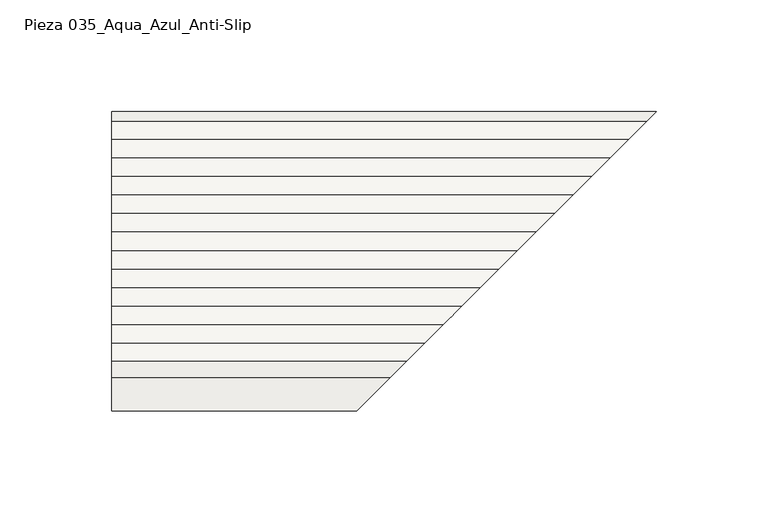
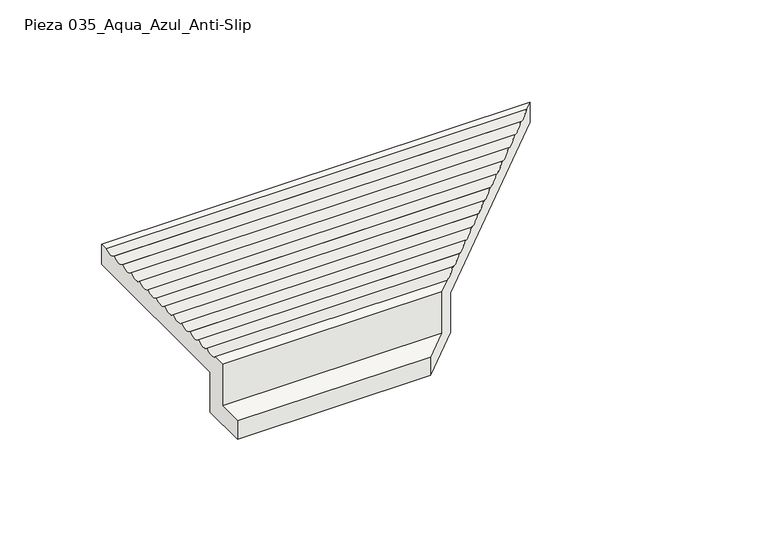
"""IFC4 building model written with IfcOpenShell, lengths in millimetres: slab geometry, ROSA GRES_035 (corte) : Pieza 035_Aqua_Azul_Anti-Slip."""

from ifc_helpers import new_model, si_unit, frame, origin, place, context, project, spatial, polyline, circle_curve, ellipse_curve, source, transform, mapped, element, save
from ifc_brep_helpers import plane_surface, revolved_surface, advanced_brep


def pieza_035_aqua_azul_anti_slip_d3a0b70b(model_context):
    return source(origin(), model_context, "Body", "AdvancedBrep", [
        advanced_brep(
        [(0.0, 27.0, 0.0), (0.0, 0.0, 0.0), (0.0, 0.0, 11.0), (0.0, 15.0, 11.0), (0.0, 15.0, 36.0), (0.0, 22.2513049, 36.0), (0.0, 30.2099792, 36.3166361), (0.0, 38.5132257, 36.3139585), (0.0, 46.8164721, 36.3112809), (0.0, 55.1197186, 36.3086032), (0.0, 63.4229651, 36.3059256), (0.0, 71.7262115, 36.303248), (0.0, 80.029458, 36.3005703), (0.0, 88.3327044, 36.2978927), (0.0, 96.6359509, 36.2952151), (0.0, 104.9391974, 36.2925375), (0.0, 113.2424438, 36.2898598), (0.0, 121.5456903, 36.2871822), (0.0, 129.5038983, 35.9651908), (0.0, 134.0, 35.9651908), (0.0, 134.0, 24.0), (0.0, 27.0, 24.0), (136.5, 27.0, 0.0), (109.5, 0.0, 0.0), (109.5, 0.0, 11.0), (124.5, 15.0, 11.0), (124.5, 15.0, 36.0), (131.7513049, 22.2513049, 36.0), (139.7099792, 30.2099792, 36.3166361), (148.0132257, 38.5132257, 36.3139585), (156.3164721, 46.8164721, 36.3112809), (164.6197186, 55.1197186, 36.3086032), (172.9229651, 63.4229651, 36.3059256), (181.2262115, 71.7262115, 36.303248), (189.529458, 80.029458, 36.3005703), (197.8327044, 88.3327044, 36.2978927), (206.1359509, 96.6359509, 36.2952151), (214.4391974, 104.9391974, 36.2925375), (222.7424438, 113.2424438, 36.2898598), (231.0456903, 121.5456903, 36.2871822), (239.0038983, 129.5038983, 35.9651908), (243.5, 134.0, 35.9651908), (243.5, 134.0, 24.0), (136.5, 27.0, 24.0)],
        [
            (0, 1),
            (1, 2),
            (2, 3),
            (3, 4),
            (4, 5),
            (5, 6, circle_curve(frame((0.0, 26.0596902, 40.4552078), z_axis=(1.0, 0.0, 0.0), x_axis=(0.0, 1.0, 0.0)), 5.8611155)),
            (6, 7, circle_curve(frame((0.0, 34.3629366, 40.4525301), z_axis=(1.0, 0.0, 0.0), x_axis=(0.0, 1.0, 0.0)), 5.8611155)),
            (7, 8, circle_curve(frame((0.0, 42.6661831, 40.4498525), z_axis=(1.0, 0.0, 0.0), x_axis=(0.0, 1.0, 0.0)), 5.8611155)),
            (8, 9, circle_curve(frame((0.0, 50.9694296, 40.4471749), z_axis=(1.0, 0.0, 0.0), x_axis=(0.0, 1.0, 0.0)), 5.8611155)),
            (9, 10, circle_curve(frame((0.0, 59.272676, 40.4444972), z_axis=(1.0, 0.0, 0.0), x_axis=(0.0, 1.0, 0.0)), 5.8611155)),
            (10, 11, circle_curve(frame((0.0, 67.5759225, 40.4418196), z_axis=(1.0, 0.0, 0.0), x_axis=(0.0, 1.0, 0.0)), 5.8611155)),
            (11, 12, circle_curve(frame((0.0, 75.8791689, 40.439142), z_axis=(1.0, 0.0, 0.0), x_axis=(0.0, 1.0, 0.0)), 5.8611155)),
            (12, 13, circle_curve(frame((0.0, 84.1824154, 40.4364643), z_axis=(1.0, 0.0, 0.0), x_axis=(0.0, 1.0, 0.0)), 5.8611155)),
            (13, 14, circle_curve(frame((0.0, 92.4856619, 40.4337867), z_axis=(1.0, 0.0, 0.0), x_axis=(0.0, 1.0, 0.0)), 5.8611155)),
            (14, 15, circle_curve(frame((0.0, 100.7889083, 40.4311091), z_axis=(1.0, 0.0, 0.0), x_axis=(0.0, 1.0, 0.0)), 5.8611155)),
            (15, 16, circle_curve(frame((0.0, 109.0921548, 40.4284314), z_axis=(1.0, 0.0, 0.0), x_axis=(0.0, 1.0, 0.0)), 5.8611155)),
            (16, 17, circle_curve(frame((0.0, 117.3954012, 40.4257538), z_axis=(1.0, 0.0, 0.0), x_axis=(0.0, 1.0, 0.0)), 5.8611155)),
            (17, 18, circle_curve(frame((0.0, 125.6986477, 40.4230762), z_axis=(1.0, 0.0, 0.0), x_axis=(0.0, 1.0, 0.0)), 5.8611155)),
            (18, 19),
            (19, 20),
            (20, 21),
            (21, 0),
            (0, 22),
            (22, 23),
            (23, 1),
            (23, 24),
            (24, 2),
            (24, 25),
            (25, 3),
            (25, 26),
            (26, 4),
            (26, 27),
            (27, 5),
            (27, 28, ellipse_curve(frame((135.5596902, 26.0596902, 40.4552078), z_axis=(0.7071067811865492, -0.7071067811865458, 0.0), x_axis=(0.7071067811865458, 0.7071067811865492, 0.0)), 8.288869, 5.8611155)),
            (28, 6),
            (28, 29, ellipse_curve(frame((143.8629366, 34.3629366, 40.4525301), z_axis=(0.7071067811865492, -0.7071067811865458, 0.0), x_axis=(0.7071067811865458, 0.7071067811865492, 0.0)), 8.288869, 5.8611155)),
            (29, 7),
            (29, 30, ellipse_curve(frame((152.1661831, 42.6661831, 40.4498525), z_axis=(0.7071067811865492, -0.7071067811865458, 0.0), x_axis=(0.7071067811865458, 0.7071067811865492, 0.0)), 8.288869, 5.8611155)),
            (30, 8),
            (30, 31, ellipse_curve(frame((160.4694295, 50.9694296, 40.4471749), z_axis=(0.7071067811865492, -0.7071067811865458, 0.0), x_axis=(0.7071067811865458, 0.7071067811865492, 0.0)), 8.288869, 5.8611155)),
            (31, 9),
            (31, 32, ellipse_curve(frame((168.772676, 59.272676, 40.4444972), z_axis=(0.7071067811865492, -0.7071067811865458, 0.0), x_axis=(0.7071067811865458, 0.7071067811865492, 0.0)), 8.288869, 5.8611155)),
            (32, 10),
            (32, 33, ellipse_curve(frame((177.0759225, 67.5759225, 40.4418196), z_axis=(0.7071067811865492, -0.7071067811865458, 0.0), x_axis=(0.7071067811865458, 0.7071067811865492, 0.0)), 8.288869, 5.8611155)),
            (33, 11),
            (33, 34, ellipse_curve(frame((185.3791689, 75.8791689, 40.439142), z_axis=(0.7071067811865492, -0.7071067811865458, 0.0), x_axis=(0.7071067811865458, 0.7071067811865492, 0.0)), 8.288869, 5.8611155)),
            (34, 12),
            (34, 35, ellipse_curve(frame((193.6824154, 84.1824154, 40.4364643), z_axis=(0.7071067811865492, -0.7071067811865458, 0.0), x_axis=(0.7071067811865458, 0.7071067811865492, 0.0)), 8.288869, 5.8611155)),
            (35, 13),
            (35, 36, ellipse_curve(frame((201.9856619, 92.4856619, 40.4337867), z_axis=(0.7071067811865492, -0.7071067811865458, 0.0), x_axis=(0.7071067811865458, 0.7071067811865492, 0.0)), 8.288869, 5.8611155)),
            (36, 14),
            (36, 37, ellipse_curve(frame((210.2889083, 100.7889083, 40.4311091), z_axis=(0.7071067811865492, -0.7071067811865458, 0.0), x_axis=(0.7071067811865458, 0.7071067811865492, 0.0)), 8.288869, 5.8611155)),
            (37, 15),
            (37, 38, ellipse_curve(frame((218.5921548, 109.0921548, 40.4284314), z_axis=(0.7071067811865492, -0.7071067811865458, 0.0), x_axis=(0.7071067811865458, 0.7071067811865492, 0.0)), 8.288869, 5.8611155)),
            (38, 16),
            (38, 39, ellipse_curve(frame((226.8954012, 117.3954012, 40.4257538), z_axis=(0.7071067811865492, -0.7071067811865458, 0.0), x_axis=(0.7071067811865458, 0.7071067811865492, 0.0)), 8.288869, 5.8611155)),
            (39, 17),
            (39, 40, ellipse_curve(frame((235.1986477, 125.6986477, 40.4230762), z_axis=(0.7071067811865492, -0.7071067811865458, 0.0), x_axis=(0.7071067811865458, 0.7071067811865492, 0.0)), 8.288869, 5.8611155)),
            (40, 18),
            (40, 41),
            (41, 19),
            (41, 42),
            (42, 20),
            (42, 43),
            (43, 21),
            (43, 22),
        ],
        [
            plane_surface(frame((0.0, 0.0, 0.0), z_axis=(-1.0, 0.0, 0.0), x_axis=(0.0, 0.0, 1.0))),
            plane_surface(frame((0.0, 27.0, 0.0), z_axis=(0.0, 0.0, -1.0), x_axis=(1.0, 0.0, 0.0))),
            plane_surface(frame((0.0, 0.0, 0.0), z_axis=(0.0, -1.0, 0.0), x_axis=(1.0, 0.0, 0.0))),
            plane_surface(frame((0.0, 0.0, 11.0), z_axis=(0.0, 0.0, 1.0), x_axis=(1.0, 0.0, 0.0))),
            plane_surface(frame((0.0, 15.0, 11.0), z_axis=(0.0, -1.0, 1.6630550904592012e-11), x_axis=(1.0, 0.0, 0.0))),
            plane_surface(frame((0.0, 15.0, 36.0), z_axis=(0.0, 0.0, 1.0), x_axis=(1.0, 0.0, 0.0))),
            revolved_surface(polyline([(141.42080567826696, 31.9208057, 40.4552078), (0.0, 31.9208057, 40.4552078)]), (0.0, 26.0596902, 40.4552078), (1.0, 0.0, 0.0)),
            revolved_surface(polyline([(149.72405207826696, 40.224052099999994, 40.4525301), (0.0, 40.224052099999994, 40.4525301)]), (0.0, 34.3629366, 40.4525301), (1.0, 0.0, 0.0)),
            revolved_surface(polyline([(158.02729857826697, 48.527298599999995, 40.4498525), (0.0, 48.527298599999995, 40.4498525)]), (0.0, 42.6661831, 40.4498525), (1.0, 0.0, 0.0)),
            revolved_surface(polyline([(166.33054497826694, 56.830545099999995, 40.4471749), (0.0, 56.830545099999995, 40.4471749)]), (0.0, 50.9694296, 40.4471749), (1.0, 0.0, 0.0)),
            revolved_surface(polyline([(174.63379147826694, 65.1337915, 40.4444972), (0.0, 65.1337915, 40.4444972)]), (0.0, 59.272676, 40.4444972), (1.0, 0.0, 0.0)),
            revolved_surface(polyline([(182.93703797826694, 73.437038, 40.4418196), (0.0, 73.437038, 40.4418196)]), (0.0, 67.5759225, 40.4418196), (1.0, 0.0, 0.0)),
            revolved_surface(polyline([(191.24028437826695, 81.7402844, 40.439142), (0.0, 81.7402844, 40.439142)]), (0.0, 75.8791689, 40.439142), (1.0, 0.0, 0.0)),
            revolved_surface(polyline([(199.54353087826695, 90.0435309, 40.4364643), (0.0, 90.0435309, 40.4364643)]), (0.0, 84.1824154, 40.4364643), (1.0, 0.0, 0.0)),
            revolved_surface(polyline([(207.84677737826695, 98.3467774, 40.4337867), (0.0, 98.3467774, 40.4337867)]), (0.0, 92.4856619, 40.4337867), (1.0, 0.0, 0.0)),
            revolved_surface(polyline([(216.15002377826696, 106.6500238, 40.4311091), (0.0, 106.6500238, 40.4311091)]), (0.0, 100.7889083, 40.4311091), (1.0, 0.0, 0.0)),
            revolved_surface(polyline([(224.45327027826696, 114.9532703, 40.4284314), (0.0, 114.9532703, 40.4284314)]), (0.0, 109.0921548, 40.4284314), (1.0, 0.0, 0.0)),
            revolved_surface(polyline([(232.75651667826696, 123.25651669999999, 40.4257538), (0.0, 123.25651669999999, 40.4257538)]), (0.0, 117.3954012, 40.4257538), (1.0, 0.0, 0.0)),
            revolved_surface(polyline([(241.05976317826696, 131.5597632, 40.4230762), (0.0, 131.5597632, 40.4230762)]), (0.0, 125.6986477, 40.4230762), (1.0, 0.0, 0.0)),
            plane_surface(frame((0.0, 129.5038983, 35.9651908), z_axis=(0.0, 0.0, 1.0), x_axis=(1.0, 0.0, 0.0))),
            plane_surface(frame((0.0, 134.0, 35.9651908), z_axis=(0.0, 1.0, -1.168190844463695e-11), x_axis=(1.0, 0.0, 0.0))),
            plane_surface(frame((0.0, 134.0, 24.0), z_axis=(0.0, 0.0, -1.0), x_axis=(1.0, 0.0, 0.0))),
            plane_surface(frame((0.0, 27.0, 24.0), z_axis=(0.0, 1.0, 0.0), x_axis=(1.0, 0.0, 0.0))),
            plane_surface(frame((244.0, 134.5, 104.9871832), z_axis=(0.7071067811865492, -0.7071067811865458, 0.0), x_axis=(0.0, 0.0, -1.0))),
        ],
        [
            (0, [[1, 2, 3, 4, 5, 6, 7, 8, 9, 10, 11, 12, 13, 14, 15, 16, 17, 18, 19, 20, 21, 22]]),
            (1, [[-1, 23, 24, 25]]),
            (2, [[-2, -25, 26, 27]]),
            (3, [[-3, -27, 28, 29]]),
            (4, [[-4, -29, 30, 31]]),
            (5, [[-5, -31, 32, 33]]),
            (6, [[-6, -33, 34, 35]]),
            (7, [[-7, -35, 36, 37]]),
            (8, [[-8, -37, 38, 39]]),
            (9, [[-9, -39, 40, 41]]),
            (10, [[-10, -41, 42, 43]]),
            (11, [[-11, -43, 44, 45]]),
            (12, [[-12, -45, 46, 47]]),
            (13, [[-13, -47, 48, 49]]),
            (14, [[-14, -49, 50, 51]]),
            (15, [[-15, -51, 52, 53]]),
            (16, [[-16, -53, 54, 55]]),
            (17, [[-17, -55, 56, 57]]),
            (18, [[-18, -57, 58, 59]]),
            (19, [[-19, -59, 60, 61]]),
            (20, [[-20, -61, 62, 63]]),
            (21, [[-21, -63, 64, 65]]),
            (22, [[-22, -65, 66, -23]]),
            (23, [[-24, -66, -64, -62, -60, -58, -56, -54, -52, -50, -48, -46, -44, -42, -40, -38, -36, -34, -32, -30, -28, -26]]),
        ],
    ),
    ])


if __name__ == "__main__":
    model = new_model("IFC4")
    model_context = context("Model", 3, world=origin())
    ifc_project = project(units=[si_unit("LENGTHUNIT", "METRE", prefix="MILLI")], contexts=[model_context])
    site = spatial("IfcSite", under=ifc_project)
    building = spatial("IfcBuilding", under=site)
    placement = place(None, origin())
    pieza_035_aqua_azul_anti_slip_shape = pieza_035_aqua_azul_anti_slip_d3a0b70b(model_context)
    element("IfcSlab", 1, ObjectType="ROSA GRES_035 (corte) : Pieza 035_Aqua_Azul_Anti-Slip", at=placement, inside=building, context=model_context, shape_type="MappedRepresentation", body=[
        mapped(pieza_035_aqua_azul_anti_slip_shape, transform((0.0, 0.0, 0.0), x_axis=(1.0, 0.0, 0.0), y_axis=(0.0, 1.0, 0.0), z_axis=(0.0, 0.0, 1.0))),
    ])
    save(model, "model.ifc")
